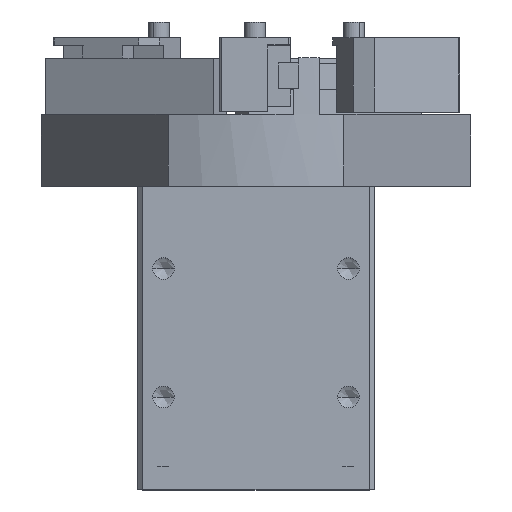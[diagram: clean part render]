
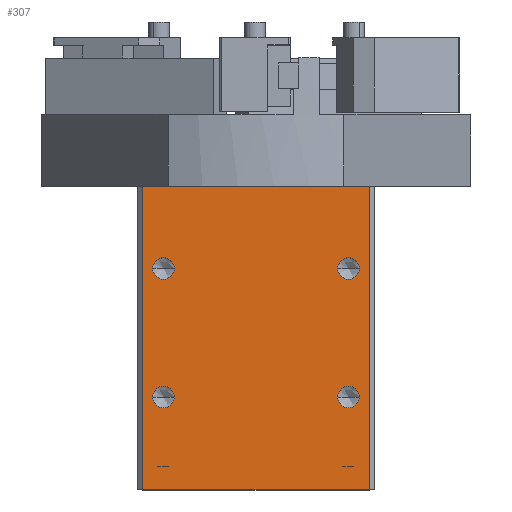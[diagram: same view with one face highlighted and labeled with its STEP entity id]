
A CAD part, top view. The second image highlights one B-rep face of the part: STEP entity #307.
In plain terms, the highlighted planar face has unit normal (0, 0, 1).
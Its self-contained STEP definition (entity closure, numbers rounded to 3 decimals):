
#307=ADVANCED_FACE('',(#1176,#1177,#1178,#1179,#1180),#1175,.F.);
#1175=PLANE('',#5235);
#1176=FACE_OUTER_BOUND('',#5236,.T.);
#1177=FACE_BOUND('',#5237,.T.);
#1178=FACE_BOUND('',#5238,.T.);
#1179=FACE_BOUND('',#5239,.T.);
#1180=FACE_BOUND('',#5240,.T.);
#5232=CARTESIAN_POINT('',(-26.4,-8.1,30.));
#5233=DIRECTION('',(0.,0.,-1.));
#5234=DIRECTION('',(1.,0.,0.));
#5235=AXIS2_PLACEMENT_3D('',#5232,#5233,#5234);
#5236=EDGE_LOOP('',(#8382,#8383,#8384,#8385,#8386,#8387));
#5237=EDGE_LOOP('',(#8388,#8389));
#5238=EDGE_LOOP('',(#8390,#8391));
#5239=EDGE_LOOP('',(#8392,#8393));
#5240=EDGE_LOOP('',(#8394,#8395));
#8382=ORIENTED_EDGE('',*,*,#10168,.F.);
#8383=ORIENTED_EDGE('',*,*,#10289,.F.);
#8384=ORIENTED_EDGE('',*,*,#10326,.F.);
#8385=ORIENTED_EDGE('',*,*,#10327,.T.);
#8386=ORIENTED_EDGE('',*,*,#10328,.F.);
#8387=ORIENTED_EDGE('',*,*,#10278,.F.);
#8388=ORIENTED_EDGE('',*,*,#10329,.T.);
#8389=ORIENTED_EDGE('',*,*,#10330,.T.);
#8390=ORIENTED_EDGE('',*,*,#10331,.T.);
#8391=ORIENTED_EDGE('',*,*,#10332,.T.);
#8392=ORIENTED_EDGE('',*,*,#10333,.T.);
#8393=ORIENTED_EDGE('',*,*,#10334,.T.);
#8394=ORIENTED_EDGE('',*,*,#10335,.T.);
#8395=ORIENTED_EDGE('',*,*,#10336,.T.);
#10168=EDGE_CURVE('',#11189,#11196,#11197,.T.);
#10278=EDGE_CURVE('',#11196,#11941,#11942,.T.);
#10289=EDGE_CURVE('',#12008,#11189,#12015,.T.);
#10326=EDGE_CURVE('',#12267,#12008,#12268,.T.);
#10327=EDGE_CURVE('',#12267,#12274,#12275,.T.);
#10328=EDGE_CURVE('',#11941,#12274,#12281,.T.);
#10329=EDGE_CURVE('',#12287,#12288,#12289,.T.);
#10330=EDGE_CURVE('',#12288,#12287,#12295,.T.);
#10331=EDGE_CURVE('',#12301,#12302,#12303,.T.);
#10332=EDGE_CURVE('',#12302,#12301,#12309,.T.);
#10333=EDGE_CURVE('',#12315,#12316,#12317,.T.);
#10334=EDGE_CURVE('',#12316,#12315,#12323,.T.);
#10335=EDGE_CURVE('',#12329,#12330,#12331,.T.);
#10336=EDGE_CURVE('',#12330,#12329,#12337,.T.);
#11189=VERTEX_POINT('',#17942);
#11196=VERTEX_POINT('',#17946);
#11197=LINE('',#17947,#17948);
#11941=VERTEX_POINT('',#18397);
#11942=LINE('',#18398,#18399);
#12008=VERTEX_POINT('',#18434);
#12015=LINE('',#18438,#18439);
#12267=VERTEX_POINT('',#18599);
#12268=LINE('',#18600,#18601);
#12274=VERTEX_POINT('',#18603);
#12275=LINE('',#18604,#18605);
#12281=LINE('',#18607,#18608);
#12287=VERTEX_POINT('',#18610);
#12288=VERTEX_POINT('',#18611);
#12289=CIRCLE('',#18615,2.1);
#12295=CIRCLE('',#18619,2.1);
#12301=VERTEX_POINT('',#18620);
#12302=VERTEX_POINT('',#18621);
#12303=CIRCLE('',#18625,2.1);
#12309=CIRCLE('',#18629,2.1);
#12315=VERTEX_POINT('',#18630);
#12316=VERTEX_POINT('',#18631);
#12317=CIRCLE('',#18635,2.1);
#12323=CIRCLE('',#18639,2.1);
#12329=VERTEX_POINT('',#18640);
#12330=VERTEX_POINT('',#18641);
#12331=CIRCLE('',#18645,2.1);
#12337=CIRCLE('',#18649,2.1);
#17942=CARTESIAN_POINT('',(22.,-73.,30.));
#17946=CARTESIAN_POINT('',(-22.,-73.,30.));
#17947=CARTESIAN_POINT('',(22.,-73.,30.));
#17948=VECTOR('',#17949,44.);
#17949=DIRECTION('',(-1.,0.,0.));
#18397=CARTESIAN_POINT('',(-22.,-14.,30.));
#18398=CARTESIAN_POINT('',(-22.,-73.,30.));
#18399=VECTOR('',#18400,59.);
#18400=DIRECTION('',(0.,1.,0.));
#18434=CARTESIAN_POINT('',(22.,-14.,30.));
#18438=CARTESIAN_POINT('',(22.,-14.,30.));
#18439=VECTOR('',#18440,59.);
#18440=DIRECTION('',(0.,-1.,0.));
#18599=CARTESIAN_POINT('',(21.939,-14.,30.));
#18600=CARTESIAN_POINT('',(21.939,-14.,30.));
#18601=VECTOR('',#18602,0.061);
#18602=DIRECTION('',(1.,0.,0.));
#18603=CARTESIAN_POINT('',(-21.939,-14.,30.));
#18604=CARTESIAN_POINT('',(21.939,-14.,30.));
#18605=VECTOR('',#18606,43.879);
#18606=DIRECTION('',(-1.,0.,0.));
#18607=CARTESIAN_POINT('',(-22.,-14.,30.));
#18608=VECTOR('',#18609,0.061);
#18609=DIRECTION('',(1.,0.,0.));
#18610=CARTESIAN_POINT('',(-15.9,-55.,30.));
#18611=CARTESIAN_POINT('',(-20.1,-55.,30.));
#18612=CARTESIAN_POINT('',(-18.,-55.,30.));
#18613=DIRECTION('',(0.,0.,-1.));
#18614=DIRECTION('',(1.,0.,0.));
#18615=AXIS2_PLACEMENT_3D('',#18612,#18613,#18614);
#18616=CARTESIAN_POINT('',(-18.,-55.,30.));
#18617=DIRECTION('',(0.,0.,-1.));
#18618=DIRECTION('',(1.,0.,0.));
#18619=AXIS2_PLACEMENT_3D('',#18616,#18617,#18618);
#18620=CARTESIAN_POINT('',(-15.9,-30.,30.));
#18621=CARTESIAN_POINT('',(-20.1,-30.,30.));
#18622=CARTESIAN_POINT('',(-18.,-30.,30.));
#18623=DIRECTION('',(0.,0.,-1.));
#18624=DIRECTION('',(1.,0.,0.));
#18625=AXIS2_PLACEMENT_3D('',#18622,#18623,#18624);
#18626=CARTESIAN_POINT('',(-18.,-30.,30.));
#18627=DIRECTION('',(0.,0.,-1.));
#18628=DIRECTION('',(1.,0.,0.));
#18629=AXIS2_PLACEMENT_3D('',#18626,#18627,#18628);
#18630=CARTESIAN_POINT('',(20.1,-30.,30.));
#18631=CARTESIAN_POINT('',(15.9,-30.,30.));
#18632=CARTESIAN_POINT('',(18.,-30.,30.));
#18633=DIRECTION('',(0.,0.,-1.));
#18634=DIRECTION('',(1.,0.,0.));
#18635=AXIS2_PLACEMENT_3D('',#18632,#18633,#18634);
#18636=CARTESIAN_POINT('',(18.,-30.,30.));
#18637=DIRECTION('',(0.,0.,-1.));
#18638=DIRECTION('',(1.,0.,0.));
#18639=AXIS2_PLACEMENT_3D('',#18636,#18637,#18638);
#18640=CARTESIAN_POINT('',(20.1,-55.,30.));
#18641=CARTESIAN_POINT('',(15.9,-55.,30.));
#18642=CARTESIAN_POINT('',(18.,-55.,30.));
#18643=DIRECTION('',(0.,0.,-1.));
#18644=DIRECTION('',(1.,0.,0.));
#18645=AXIS2_PLACEMENT_3D('',#18642,#18643,#18644);
#18646=CARTESIAN_POINT('',(18.,-55.,30.));
#18647=DIRECTION('',(0.,0.,-1.));
#18648=DIRECTION('',(1.,0.,0.));
#18649=AXIS2_PLACEMENT_3D('',#18646,#18647,#18648);
